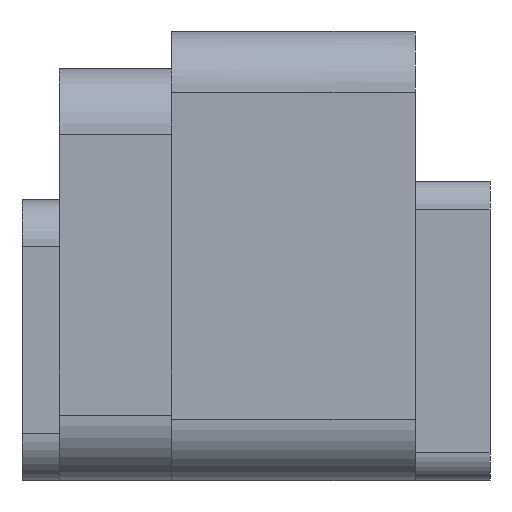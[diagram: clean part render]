
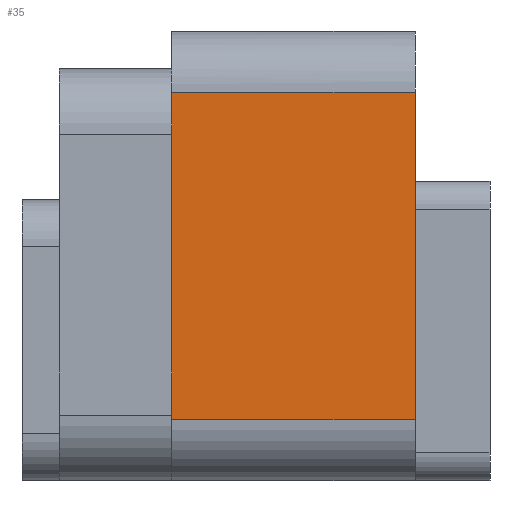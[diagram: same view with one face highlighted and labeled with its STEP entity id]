
A CAD part, front view. The second image highlights one B-rep face of the part: STEP entity #35.
In plain terms, the highlighted planar face has unit normal (0, -1, 0).
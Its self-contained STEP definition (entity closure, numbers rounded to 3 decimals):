
#35 = ADVANCED_FACE('',(#36),#50,.T.);
#36 = FACE_BOUND('',#37,.T.);
#37 = EDGE_LOOP('',(#38,#73,#101,#129));
#38 = ORIENTED_EDGE('',*,*,#39,.T.);
#39 = EDGE_CURVE('',#40,#42,#44,.T.);
#40 = VERTEX_POINT('',#41);
#41 = CARTESIAN_POINT('',(91.1,9.7,17.35));
#42 = VERTEX_POINT('',#43);
#43 = CARTESIAN_POINT('',(93.7,9.7,17.35));
#44 = SURFACE_CURVE('',#45,(#49,#61),.PCURVE_S1.);
#45 = LINE('',#46,#47);
#46 = CARTESIAN_POINT('',(91.1,9.7,17.35));
#47 = VECTOR('',#48,1.);
#48 = DIRECTION('',(1.,0.,0.));
#49 = PCURVE('',#50,#55);
#50 = PLANE('',#51);
#51 = AXIS2_PLACEMENT_3D('',#52,#53,#54);
#52 = CARTESIAN_POINT('',(91.1,9.7,17.35));
#53 = DIRECTION('',(0.,-1.,0.));
#54 = DIRECTION('',(0.,0.,1.));
#55 = DEFINITIONAL_REPRESENTATION('',(#56),#60);
#56 = LINE('',#57,#58);
#57 = CARTESIAN_POINT('',(0.,0.));
#58 = VECTOR('',#59,1.);
#59 = DIRECTION('',(0.,-1.));
#60 = ( GEOMETRIC_REPRESENTATION_CONTEXT(2) 
PARAMETRIC_REPRESENTATION_CONTEXT() REPRESENTATION_CONTEXT('2D SPACE',''
  ) );
#61 = PCURVE('',#62,#67);
#62 = CYLINDRICAL_SURFACE('',#63,0.65);
#63 = AXIS2_PLACEMENT_3D('',#64,#65,#66);
#64 = CARTESIAN_POINT('',(91.1,10.35,17.35));
#65 = DIRECTION('',(-1.,-0.,-0.));
#66 = DIRECTION('',(0.,1.,0.));
#67 = DEFINITIONAL_REPRESENTATION('',(#68),#72);
#68 = LINE('',#69,#70);
#69 = CARTESIAN_POINT('',(-3.142,0.));
#70 = VECTOR('',#71,1.);
#71 = DIRECTION('',(-0.,-1.));
#72 = ( GEOMETRIC_REPRESENTATION_CONTEXT(2) 
PARAMETRIC_REPRESENTATION_CONTEXT() REPRESENTATION_CONTEXT('2D SPACE',''
  ) );
#73 = ORIENTED_EDGE('',*,*,#74,.T.);
#74 = EDGE_CURVE('',#42,#75,#77,.T.);
#75 = VERTEX_POINT('',#76);
#76 = CARTESIAN_POINT('',(93.7,9.7,20.85));
#77 = SURFACE_CURVE('',#78,(#82,#89),.PCURVE_S1.);
#78 = LINE('',#79,#80);
#79 = CARTESIAN_POINT('',(93.7,9.7,19.1));
#80 = VECTOR('',#81,1.);
#81 = DIRECTION('',(0.,0.,1.));
#82 = PCURVE('',#50,#83);
#83 = DEFINITIONAL_REPRESENTATION('',(#84),#88);
#84 = LINE('',#85,#86);
#85 = CARTESIAN_POINT('',(1.75,-2.6));
#86 = VECTOR('',#87,1.);
#87 = DIRECTION('',(1.,0.));
#88 = ( GEOMETRIC_REPRESENTATION_CONTEXT(2) 
PARAMETRIC_REPRESENTATION_CONTEXT() REPRESENTATION_CONTEXT('2D SPACE',''
  ) );
#89 = PCURVE('',#90,#95);
#90 = PLANE('',#91);
#91 = AXIS2_PLACEMENT_3D('',#92,#93,#94);
#92 = CARTESIAN_POINT('',(93.7,12.7,19.1));
#93 = DIRECTION('',(1.,0.,0.));
#94 = DIRECTION('',(0.,1.,0.));
#95 = DEFINITIONAL_REPRESENTATION('',(#96),#100);
#96 = LINE('',#97,#98);
#97 = CARTESIAN_POINT('',(-3.,0.));
#98 = VECTOR('',#99,1.);
#99 = DIRECTION('',(0.,1.));
#100 = ( GEOMETRIC_REPRESENTATION_CONTEXT(2) 
PARAMETRIC_REPRESENTATION_CONTEXT() REPRESENTATION_CONTEXT('2D SPACE',''
  ) );
#101 = ORIENTED_EDGE('',*,*,#102,.F.);
#102 = EDGE_CURVE('',#103,#75,#105,.T.);
#103 = VERTEX_POINT('',#104);
#104 = CARTESIAN_POINT('',(91.1,9.7,20.85));
#105 = SURFACE_CURVE('',#106,(#110,#117),.PCURVE_S1.);
#106 = LINE('',#107,#108);
#107 = CARTESIAN_POINT('',(91.1,9.7,20.85));
#108 = VECTOR('',#109,1.);
#109 = DIRECTION('',(1.,0.,0.));
#110 = PCURVE('',#50,#111);
#111 = DEFINITIONAL_REPRESENTATION('',(#112),#116);
#112 = LINE('',#113,#114);
#113 = CARTESIAN_POINT('',(3.5,0.));
#114 = VECTOR('',#115,1.);
#115 = DIRECTION('',(0.,-1.));
#116 = ( GEOMETRIC_REPRESENTATION_CONTEXT(2) 
PARAMETRIC_REPRESENTATION_CONTEXT() REPRESENTATION_CONTEXT('2D SPACE',''
  ) );
#117 = PCURVE('',#118,#123);
#118 = CYLINDRICAL_SURFACE('',#119,0.65);
#119 = AXIS2_PLACEMENT_3D('',#120,#121,#122);
#120 = CARTESIAN_POINT('',(91.1,10.35,20.85));
#121 = DIRECTION('',(-1.,-0.,-0.));
#122 = DIRECTION('',(0.,1.,0.));
#123 = DEFINITIONAL_REPRESENTATION('',(#124),#128);
#124 = LINE('',#125,#126);
#125 = CARTESIAN_POINT('',(-3.142,0.));
#126 = VECTOR('',#127,1.);
#127 = DIRECTION('',(-0.,-1.));
#128 = ( GEOMETRIC_REPRESENTATION_CONTEXT(2) 
PARAMETRIC_REPRESENTATION_CONTEXT() REPRESENTATION_CONTEXT('2D SPACE',''
  ) );
#129 = ORIENTED_EDGE('',*,*,#130,.F.);
#130 = EDGE_CURVE('',#40,#103,#131,.T.);
#131 = SURFACE_CURVE('',#132,(#136,#143),.PCURVE_S1.);
#132 = LINE('',#133,#134);
#133 = CARTESIAN_POINT('',(91.1,9.7,19.1));
#134 = VECTOR('',#135,1.);
#135 = DIRECTION('',(0.,0.,1.));
#136 = PCURVE('',#50,#137);
#137 = DEFINITIONAL_REPRESENTATION('',(#138),#142);
#138 = LINE('',#139,#140);
#139 = CARTESIAN_POINT('',(1.75,0.));
#140 = VECTOR('',#141,1.);
#141 = DIRECTION('',(1.,0.));
#142 = ( GEOMETRIC_REPRESENTATION_CONTEXT(2) 
PARAMETRIC_REPRESENTATION_CONTEXT() REPRESENTATION_CONTEXT('2D SPACE',''
  ) );
#143 = PCURVE('',#144,#149);
#144 = PLANE('',#145);
#145 = AXIS2_PLACEMENT_3D('',#146,#147,#148);
#146 = CARTESIAN_POINT('',(91.1,12.7,18.9));
#147 = DIRECTION('',(1.,0.,0.));
#148 = DIRECTION('',(0.,1.,0.));
#149 = DEFINITIONAL_REPRESENTATION('',(#150),#154);
#150 = LINE('',#151,#152);
#151 = CARTESIAN_POINT('',(-3.,0.2));
#152 = VECTOR('',#153,1.);
#153 = DIRECTION('',(0.,1.));
#154 = ( GEOMETRIC_REPRESENTATION_CONTEXT(2) 
PARAMETRIC_REPRESENTATION_CONTEXT() REPRESENTATION_CONTEXT('2D SPACE',''
  ) );
